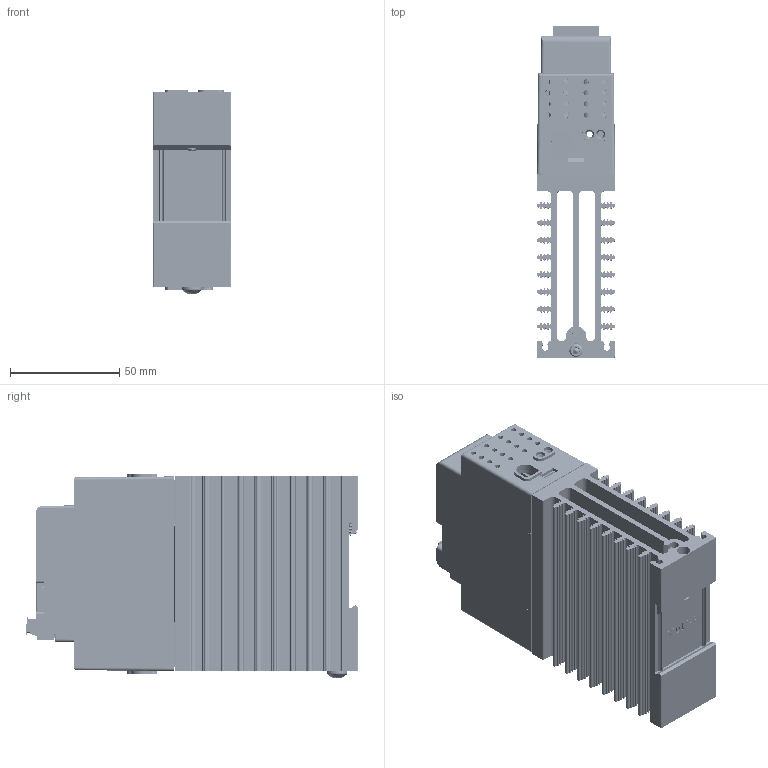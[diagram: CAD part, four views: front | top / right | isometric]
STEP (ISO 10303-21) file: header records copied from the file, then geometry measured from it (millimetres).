
FILE_DESCRIPTION(/* description */ (''),/* implementation_level */ '2;1');
FILE_NAME(/* name */ '1-phase EtherCAT 32A.stp',/* time_stamp */ '2024-11-12T08:49:12-06:00',/* author */ ('ErikG'),/* organization */ (''),/* preprocessor_version */ 'ST-DEVELOPER v20',/* originating_system */ 'Autodesk Inventor 2025',/* authorisation */ '');
FILE_SCHEMA (('AUTOMOTIVE_DESIGN { 1 0 10303 214 3 1 1 }'));
Products named in the file (30): 3001631e; 3001761; 1001600G; P11; P6; fci 6 pin header OQ06120000J0G; fci 6 pin headerOQ06120000J0G half 1; fci 5 pin header OQ05120000J0G half 2; fci 6 pin connector TS06110B00J0G; fci 5 pin connector TS05110B00J0G LEFT HALF; fci 5 pin connector TS05110B00J0G RIGHT HALF; P3; usb-c31-s-vt-cs4-bk-pp-t-r-model ADAMTECH; P5; 74990101210 (rev1); base; shielding; top board erase; SW3; SW2; SH-7070TA; _SH-7070A_body; _SH-700-Without knob (Minus slot); 3001763; 3001755; 3001756; 3001749; 0060702-1032-0375; 0060783-0610-010.ipt; spring
Assembly tree (33 placements, depth 6):
  3001631e
    3001761  x3
    1001600G
      P11
        74990101210 (rev1)
          base
          shielding
      P6
        fci 6 pin header OQ06120000J0G
          fci 6 pin headerOQ06120000J0G half 1
          fci 5 pin header OQ05120000J0G half 2
          fci 6 pin connector TS06110B00J0G
            fci 5 pin connector TS05110B00J0G LEFT HALF
            fci 5 pin connector TS05110B00J0G RIGHT HALF
      P3
        usb-c31-s-vt-cs4-bk-pp-t-r-model ADAMTECH
      P5
        74990101210 (rev1)
          base
          shielding
      top board erase
        SW3
          SH-7070TA
            _SH-7070A_body
            _SH-700-Without knob (Minus slot)
        SW2
          SH-7070TA
            _SH-7070A_body
            _SH-700-Without knob (Minus slot)
    3001763
    3001755
    3001756
    3001749
    0060702-1032-0375
    0060783-0610-010.ipt
    spring
Bounding box: 35.56 x 151.58 x 93.5 mm (x, y, z)
Volume: 165581.9 mm3; surface area: 165093.6 mm2
Topology: 24 solids, 114 shells, 9265 faces, 25848 edges, 16959 vertices
Faces by surface type: plane 7243, cylinder 1559, cone 201, bspline 174, torus 69, sphere 19
Full cylindrical faces by diameter (mm): 0.254 x1, 0.45 x2, 0.55 x2, 0.65 x2, 1 x2, 1.2 x2, 2.3 x12, 2.642 x3, 2.95 x6, 3.277 x2, 3.28 x2, 3.3 x2, 3.4 x2, 3.42 x2, 4 x2, 4.826 x1, 4.917 x1, 6 x1, 6.172 x1, 9.474 x1
Entity records: 242661 total; most frequent: CARTESIAN_POINT 57671, ORIENTED_EDGE 39190, DIRECTION 36025, EDGE_CURVE 19595, LINE 15603, VECTOR 15603, VERTEX_POINT 12865, AXIS2_PLACEMENT_3D 10211
